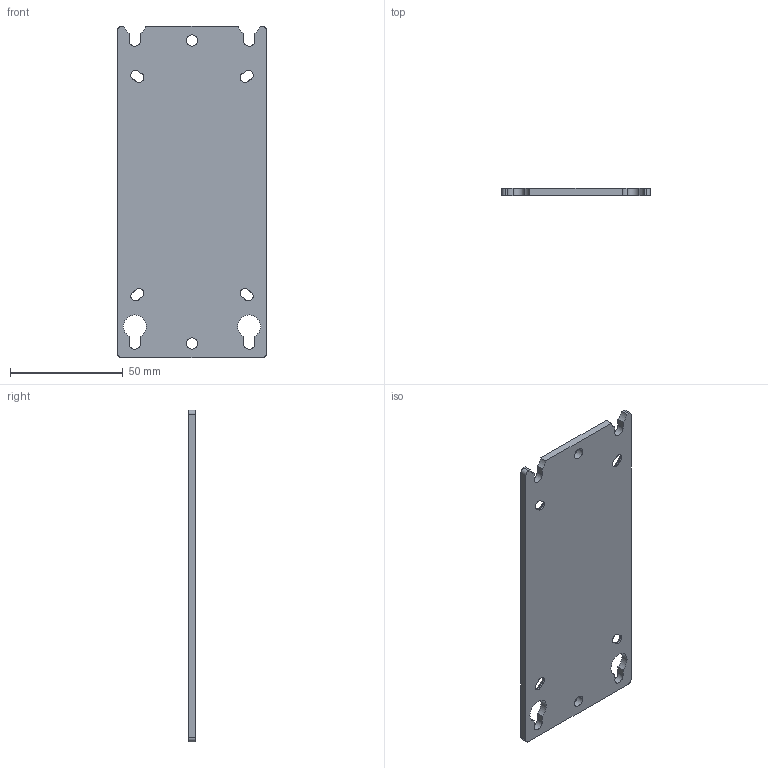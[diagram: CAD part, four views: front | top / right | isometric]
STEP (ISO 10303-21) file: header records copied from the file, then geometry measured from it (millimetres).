
FILE_DESCRIPTION((''),'2;1');
FILE_NAME('MOUNT_PANEL_KIT_SEVERRA','2011-09-30T',('dkendric'),(''),'PRO/ENGINEER BY PARAMETRIC TECHNOLOGY CORPORATION, 2010230','PRO/ENGINEER BY PARAMETRIC TECHNOLOGY CORPORATION, 2010230','');
FILE_SCHEMA(('CONFIG_CONTROL_DESIGN'));
Length unit declared in the file: inch
Products named in the file (1): MOUNT_PANEL_KIT_SEVERRA
Bounding box: 66.04 x 3.17 x 147.32 mm (x, y, z)
Volume: 29226.5 mm3; surface area: 20505.2 mm2
Topology: 1 solids, 1 shells, 50 faces, 136 edges, 88 vertices
Faces by surface type: cylinder 26, plane 16, cone 8
Entity records: 1718 total; most frequent: CARTESIAN_POINT 340, DIRECTION 288, ORIENTED_EDGE 272, EDGE_CURVE 136, AXIS2_PLACEMENT_3D 110, VERTEX_POINT 88, VECTOR 68, LINE 68
